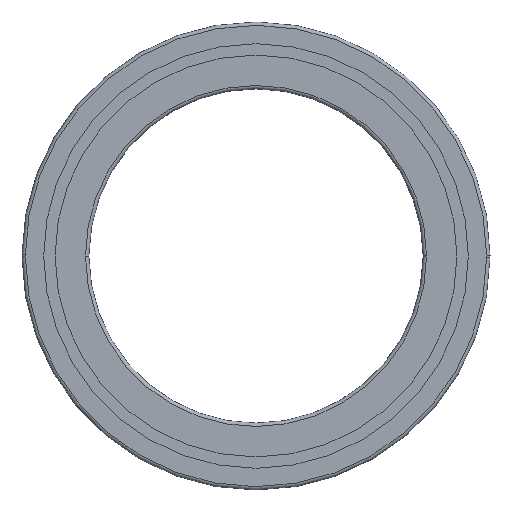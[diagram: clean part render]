
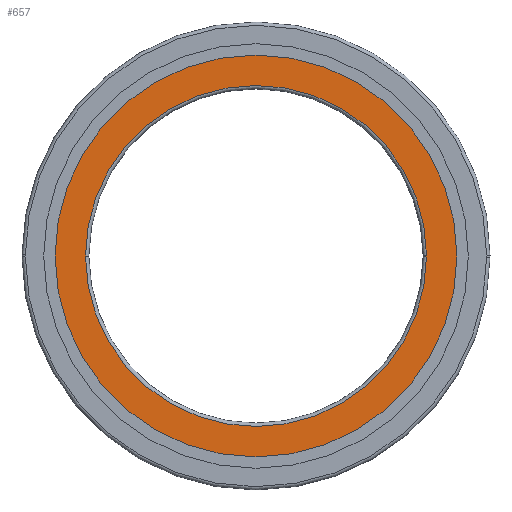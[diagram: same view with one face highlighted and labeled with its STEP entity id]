
A CAD part, front view. The second image highlights one B-rep face of the part: STEP entity #657.
In plain terms, the highlighted planar face has unit normal (0, -1, 0).
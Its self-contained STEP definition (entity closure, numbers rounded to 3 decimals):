
#317=EDGE_CURVE('',#649,#399,#855,.T.);
#369=EDGE_CURVE('',#759,#599,#916,.T.);
#391=EDGE_CURVE('',#399,#639,#940,.T.);
#399=VERTEX_POINT('',#948);
#529=VERTEX_POINT('',#1096);
#599=VERTEX_POINT('',#1176);
#639=VERTEX_POINT('',#1222);
#649=VERTEX_POINT('',#1233);
#657=ADVANCED_FACE('',(#1242,#1243),#1244,.F.);
#687=EDGE_CURVE('',#639,#529,#1276,.T.);
#729=EDGE_CURVE('',#529,#649,#1320,.T.);
#759=VERTEX_POINT('',#1353);
#771=EDGE_CURVE('',#599,#759,#1367,.T.);
#855=CIRCLE('',#1457,102.0);
#916=CIRCLE('',#1532,120.2);
#940=CIRCLE('',#1563,102.0);
#948=CARTESIAN_POINT('',(-102.0,0.0,0.));
#1096=CARTESIAN_POINT('',(102.0,0.0,0.));
#1176=CARTESIAN_POINT('',(-120.2,0.0,0.));
#1222=CARTESIAN_POINT('',(101.999,0.0,0.534));
#1233=CARTESIAN_POINT('',(-101.999,0.0,-0.534));
#1242=FACE_OUTER_BOUND('',#1933,.T.);
#1243=FACE_BOUND('',#1934,.T.);
#1244=PLANE('',#1935);
#1276=CIRCLE('',#1975,102.0);
#1320=CIRCLE('',#2030,102.0);
#1353=CARTESIAN_POINT('',(120.2,0.0,0.));
#1367=CIRCLE('',#2089,120.2);
#1457=AXIS2_PLACEMENT_3D('',#2165,#2166,#2167);
#1532=AXIS2_PLACEMENT_3D('',#2250,#2251,#2252);
#1563=AXIS2_PLACEMENT_3D('',#2282,#2283,#2284);
#1933=EDGE_LOOP('',(#2689,#2690));
#1934=EDGE_LOOP('',(#2691,#2692,#2693,#2694));
#1935=AXIS2_PLACEMENT_3D('',#2695,#2696,#2697);
#1975=AXIS2_PLACEMENT_3D('',#2730,#2731,#2732);
#2030=AXIS2_PLACEMENT_3D('',#2783,#2784,#2785);
#2089=AXIS2_PLACEMENT_3D('',#2849,#2850,#2851);
#2165=CARTESIAN_POINT('',(0.0,0.0,0.0));
#2166=DIRECTION('',(-0.0,1.0,0.0));
#2167=DIRECTION('',(1.0,0.0,0.0));
#2250=CARTESIAN_POINT('',(0.0,0.0,0.0));
#2251=DIRECTION('',(-0.0,1.0,0.0));
#2252=DIRECTION('',(1.0,0.0,0.0));
#2282=CARTESIAN_POINT('',(0.0,0.0,0.0));
#2283=DIRECTION('',(0.0,1.0,0.0));
#2284=DIRECTION('',(-1.0,0.0,0.0));
#2689=ORIENTED_EDGE('',*,*,#771,.F.);
#2690=ORIENTED_EDGE('',*,*,#369,.F.);
#2691=ORIENTED_EDGE('',*,*,#391,.T.);
#2692=ORIENTED_EDGE('',*,*,#687,.T.);
#2693=ORIENTED_EDGE('',*,*,#729,.T.);
#2694=ORIENTED_EDGE('',*,*,#317,.T.);
#2695=CARTESIAN_POINT('',(0.0,0.0,0.0));
#2696=DIRECTION('',(0.0,1.0,0.0));
#2697=DIRECTION('',(1.0,0.0,-0.0));
#2730=CARTESIAN_POINT('',(0.0,0.0,0.0));
#2731=DIRECTION('',(0.0,1.0,0.0));
#2732=DIRECTION('',(-1.0,0.0,0.0));
#2783=CARTESIAN_POINT('',(0.0,0.0,0.0));
#2784=DIRECTION('',(-0.0,1.0,0.0));
#2785=DIRECTION('',(1.0,0.0,0.0));
#2849=CARTESIAN_POINT('',(0.0,0.0,0.0));
#2850=DIRECTION('',(0.0,1.0,0.0));
#2851=DIRECTION('',(-1.0,0.0,0.0));
